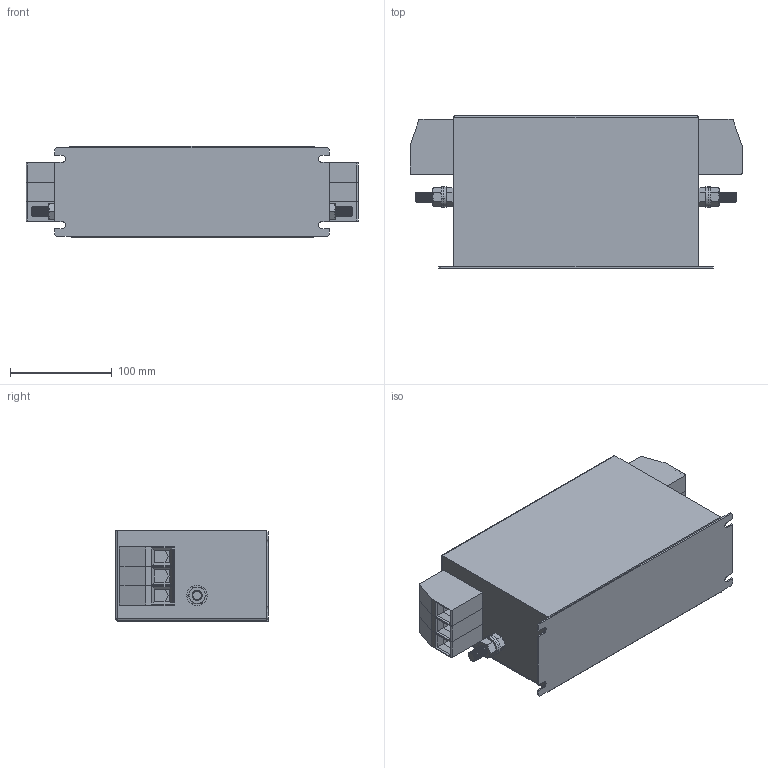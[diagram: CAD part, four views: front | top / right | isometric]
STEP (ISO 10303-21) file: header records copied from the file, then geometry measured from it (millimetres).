
FILE_DESCRIPTION (( 'STEP AP203' ), '1' );
FILE_NAME ('NF-K-100 & 130.STEP', '2013-10-23T10:57:39', ( 'Owner' ), ( 'EPA GmbH' ), 'SwSTEP 2.0', 'SolidWorks 2007', '' );
FILE_SCHEMA (( 'CONFIG_CONTROL_DESIGN' ));
Length unit declared in the file: millimetre
Products named in the file (7): Flat Washer Narrow_AM_B18.22M - Plain washer, 10 mm, narrow; NF-K-100 & 130; NK-K-100 & 130; M10x30 Earth post; Hex Screw_AM_B18.6.7M - M10 x 1.5 x 30 Plain HHMS --30S; Hex Nut Style 1_AM_B18.2.4.1M - Hex nut, Style 1,  M10 x 1.5, with 16mm WAF --D-N; HDFK-50
Assembly tree (13 placements, depth 3):
  NF-K-100 & 130
    HDFK-50  x6
    M10x30 Earth post  x2
      Hex Nut Style 1_AM_B18.2.4.1M - Hex nut, Style 1,  M10 x 1.5, with 16mm WAF --D-N
      Hex Screw_AM_B18.6.7M - M10 x 1.5 x 30 Plain HHMS --30S
      Flat Washer Narrow_AM_B18.22M - Plain washer, 10 mm, narrow
    NK-K-100 & 130
Bounding box: 326.01 x 150 x 90 mm (x, y, z)
Volume: 3281217.9 mm3; surface area: 295376 mm2
Topology: 15 solids, 15 shells, 783 faces, 1923 edges, 1218 vertices
Faces by surface type: plane 384, cone 200, cylinder 197, sphere 2
Entity records: 10280 total; most frequent: CARTESIAN_POINT 1802, DIRECTION 1669, ORIENTED_EDGE 1538, EDGE_CURVE 769, AXIS2_PLACEMENT_3D 623, VERTEX_POINT 484, VECTOR 423, LINE 423
